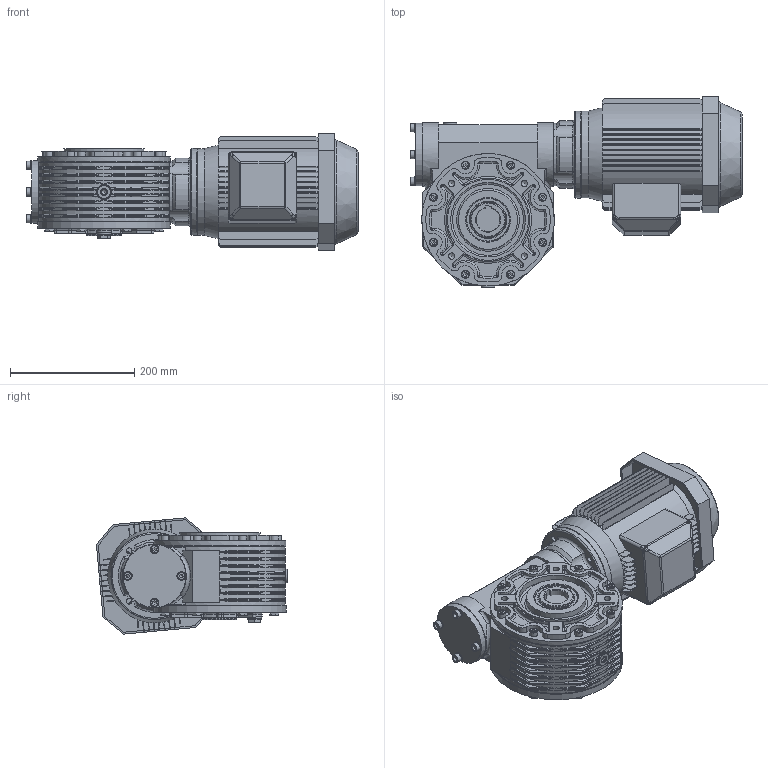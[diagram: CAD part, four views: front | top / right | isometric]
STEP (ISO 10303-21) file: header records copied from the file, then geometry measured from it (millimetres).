
FILE_DESCRIPTION((''),'2;1');
FILE_NAME('Y:\Archivi Inventor\Prog_01\GRAND_50\complessivi\Figurini\MRV50 sito\90l\mrv50_FP2_90L_B14.stp','2013-02-08T10:21:49',('tech3'),(''),'Autodesk Inventor 2013','Autodesk Inventor 2013','');
FILE_SCHEMA(('AUTOMOTIVE_DESIGN { 1 0 10303 214 1 1 1 1 }'));
Length unit declared in the file: millimetre
Products named in the file (20): mrv50_90s_90l_b14; mrv50_fig; Figurino_carcassa_MRV50; 0105028; 0105029; figurino_corona_MRV50; Guarnizione 3_8 GAS; Tappo 3_8 GAS_esagn_incsst; figurino_0105009; ISO 4017 M8 x 20; 55_70_8; fig_0105002; Tappo3_8 GAS; ISO 4762 M8 x 16; fig_0105004; UNI 6592 8.4 x 14; UNI 5931  M 8 x  25; 0105006; DIN EN ISO 4762 M8 x 25; motori B14 90L
Assembly tree (48 placements, depth 3):
  mrv50_90s_90l_b14
    mrv50_fig
      Figurino_carcassa_MRV50
      0105028  x2
      0105029  x2
      figurino_corona_MRV50
      Guarnizione 3_8 GAS  x3
      Tappo 3_8 GAS_esagn_incsst  x2
      figurino_0105009
      ISO 4017 M8 x 20  x8
      55_70_8  x2
      fig_0105002
      Tappo3_8 GAS
      ISO 4762 M8 x 16  x8
      fig_0105004
      UNI 6592 8.4 x 14  x4
      UNI 5931  M 8 x  25  x4
    0105006
    DIN EN ISO 4762 M8 x 25  x4
    motori B14 90L
Bounding box: 533.8 x 307.51 x 187.02 mm (x, y, z)
Volume: 10894516.3 mm3; surface area: 1088570.6 mm2
Topology: 59 solids, 61 shells, 2011 faces, 4880 edges, 2966 vertices
Faces by surface type: plane 791, cylinder 641, cone 192, torus 185, bspline 152, sphere 50
Full cylindrical faces by diameter (mm): 2 x2, 6.647 x28, 8 x26, 8.4 x4, 8.5 x48, 9 x4, 10.106 x4, 11.63 x8, 13 x20, 13.046 x1, 14 x8, 14.95 x3, 16.3 x3, 16.5 x2, 22 x6, 24 x3, 55 x1, 60 x1, 66.4 x2, 69 x2, 70 x6, 72 x4, 73 x2, 75 x1, 95 x2, 99.5 x2, 101 x1, 102 x2, 114.4 x1, 120 x1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
Entity records: 54554 total; most frequent: CARTESIAN_POINT 17604, DIRECTION 7724, ORIENTED_EDGE 6918, EDGE_CURVE 3459, AXIS2_PLACEMENT_3D 3086, VERTEX_POINT 2244, EDGE_LOOP 1983, CIRCLE 1577
